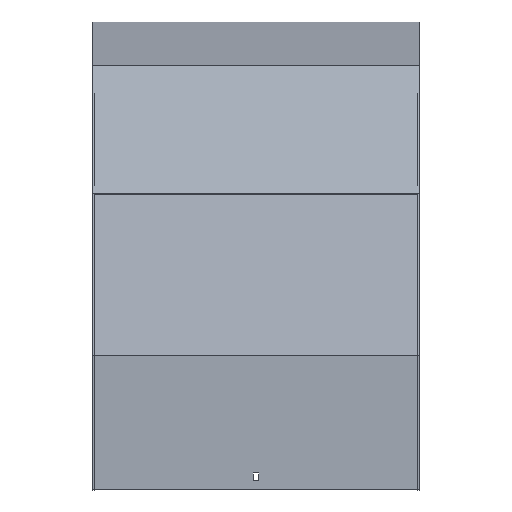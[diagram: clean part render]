
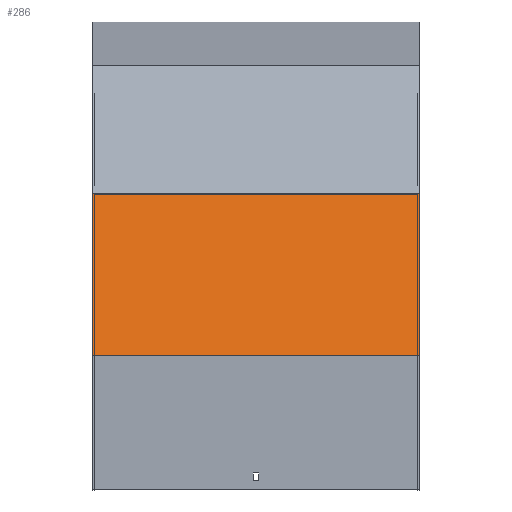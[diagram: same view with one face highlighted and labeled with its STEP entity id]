
A CAD part, top view. The second image highlights one B-rep face of the part: STEP entity #286.
In plain terms, the highlighted planar face has unit normal (0, 0.259, 0.966).
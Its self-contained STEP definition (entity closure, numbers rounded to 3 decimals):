
#1 = LINE ( 'NONE', #249, #365 ) ;
#74 = VECTOR ( 'NONE', #498, 1000. ) ;
#107 = VECTOR ( 'NONE', #138, 1000. ) ;
#138 = DIRECTION ( 'NONE',  ( 0., -0.966, 0.259 ) ) ;
#155 = LINE ( 'NONE', #680, #985 ) ;
#188 = EDGE_LOOP ( 'NONE', ( #373, #1022, #695, #849 ) ) ;
#249 = CARTESIAN_POINT ( 'NONE',  ( 201.5, -192.473, 525.472 ) ) ;
#254 = CARTESIAN_POINT ( 'NONE',  ( -201.5, -197.649, 526.859 ) ) ;
#286 = ADVANCED_FACE ( 'NONE', ( #1114 ), #726, .F. ) ;
#349 = VERTEX_POINT ( 'NONE', #453 ) ;
#365 = VECTOR ( 'NONE', #678, 1000. ) ;
#373 = ORIENTED_EDGE ( 'NONE', *, *, #1068, .T. ) ;
#403 = CARTESIAN_POINT ( 'NONE',  ( 201.5, -197.649, 526.859 ) ) ;
#452 = EDGE_CURVE ( 'NONE', #505, #349, #155, .T. ) ;
#453 = CARTESIAN_POINT ( 'NONE',  ( 201.5, -392.412, 579.045 ) ) ;
#498 = DIRECTION ( 'NONE',  ( -1., 0., 0. ) ) ;
#505 = VERTEX_POINT ( 'NONE', #954 ) ;
#562 = LINE ( 'NONE', #838, #74 ) ;
#585 = LINE ( 'NONE', #254, #107 ) ;
#639 = DIRECTION ( 'NONE',  ( 0., -0.259, -0.966 ) ) ;
#643 = EDGE_CURVE ( 'NONE', #505, #703, #1, .T. ) ;
#673 = CARTESIAN_POINT ( 'NONE',  ( -201.5, -392.412, 579.045 ) ) ;
#678 = DIRECTION ( 'NONE',  ( -1., 0., 0. ) ) ;
#680 = CARTESIAN_POINT ( 'NONE',  ( 201.5, -197.649, 526.859 ) ) ;
#694 = DIRECTION ( 'NONE',  ( 0., -0.966, 0.259 ) ) ;
#695 = ORIENTED_EDGE ( 'NONE', *, *, #452, .F. ) ;
#703 = VERTEX_POINT ( 'NONE', #710 ) ;
#710 = CARTESIAN_POINT ( 'NONE',  ( -201.5, -192.473, 525.472 ) ) ;
#726 = PLANE ( 'NONE',  #794 ) ;
#794 = AXIS2_PLACEMENT_3D ( 'NONE', #403, #639, #995 ) ;
#838 = CARTESIAN_POINT ( 'NONE',  ( 201.5, -392.412, 579.045 ) ) ;
#849 = ORIENTED_EDGE ( 'NONE', *, *, #643, .T. ) ;
#954 = CARTESIAN_POINT ( 'NONE',  ( 201.5, -192.473, 525.472 ) ) ;
#985 = VECTOR ( 'NONE', #694, 1000. ) ;
#995 = DIRECTION ( 'NONE',  ( 0., 0.966, -0.259 ) ) ;
#1022 = ORIENTED_EDGE ( 'NONE', *, *, #1082, .F. ) ;
#1060 = VERTEX_POINT ( 'NONE', #673 ) ;
#1068 = EDGE_CURVE ( 'NONE', #703, #1060, #585, .T. ) ;
#1082 = EDGE_CURVE ( 'NONE', #349, #1060, #562, .T. ) ;
#1114 = FACE_OUTER_BOUND ( 'NONE', #188, .T. ) ;
